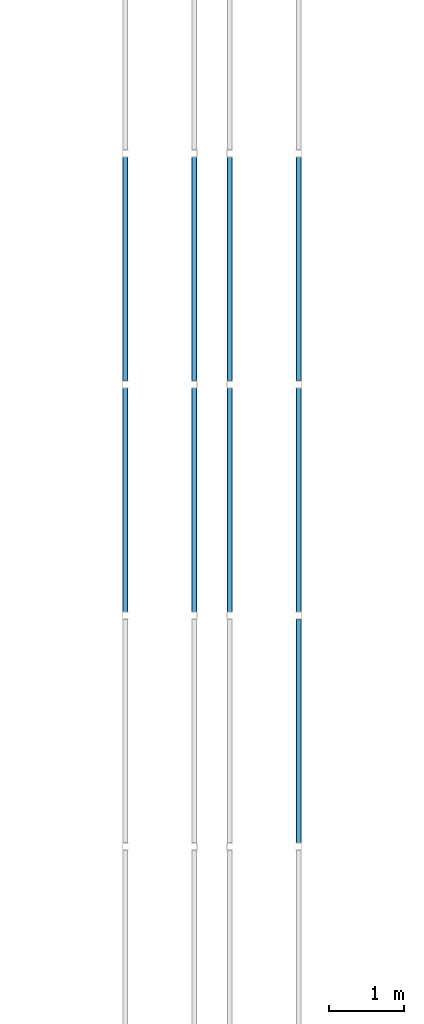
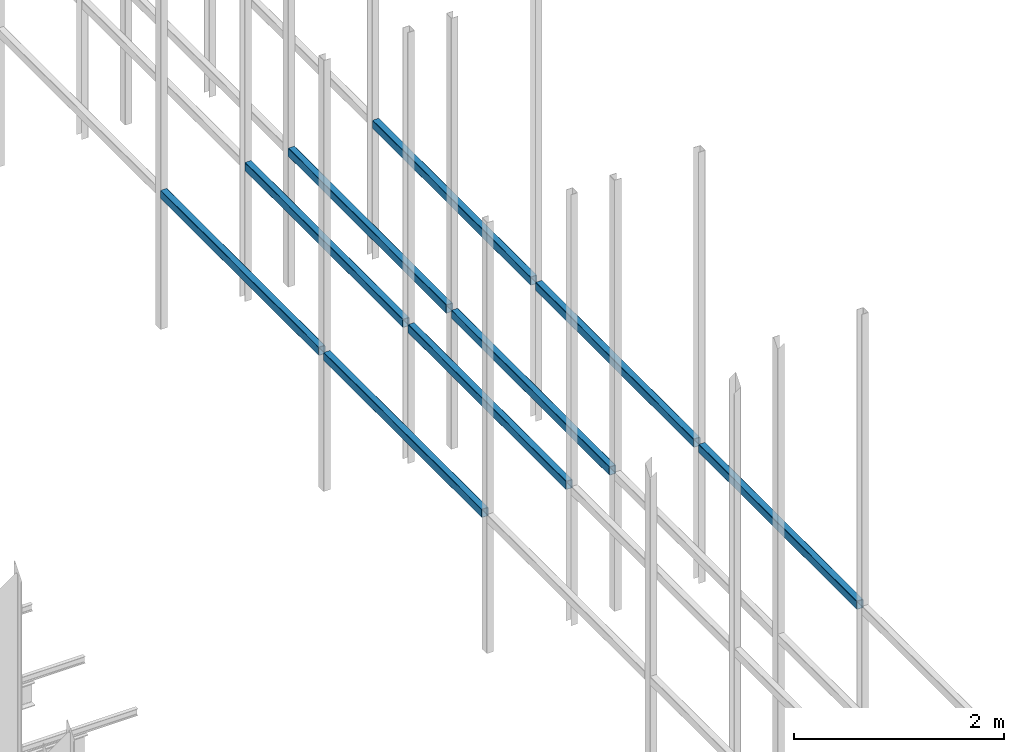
# One storey, part 164 of 302: 9 beams.
"""IFC2X3 building model written with IfcOpenShell, lengths in metres."""

import ifcopenshell
import ifcopenshell.guid

model = None  # the IFC model being written
_history = None  # IfcOwnerHistory: only IFC2X3 demands one
_inside = {}  # id of a spatial element -> (the spatial element, [elements in it])
_under = {}  # id of a project, library or spatial element -> (it, [spatial elements below it])
_declared = {}  # id of a project -> (the project, [libraries it declares])
_typed = {}  # id of a type object -> (the type object, [elements of that type])
_made_of = {}  # id of a material, layer set ... -> (it, [elements and type objects made of it])


def new_model(schema):
    """Start an empty IFC model of exactly this schema.

    Asked for "IFC4X3", IfcOpenShell would pick the latest addendum, in which some entities
    have other attributes; the version numbers below select the first issue.
    IFC2X3 requires an IfcOwnerHistory on every rooted entity: one is made here for all.
    """
    global model, _history
    if schema == "IFC4X3":
        model = ifcopenshell.file(schema_version=(4, 3, 0, 0))
    else:
        model = ifcopenshell.file(schema=schema)
    _inside.clear()
    _under.clear()
    _declared.clear()
    _typed.clear()
    _made_of.clear()
    _history = None
    if model.schema == "IFC2X3":
        org = make("IfcOrganization", Name="unknown")
        user = make(
            "IfcPersonAndOrganization",
            ThePerson=make("IfcPerson", FamilyName="unknown"),
            TheOrganization=org,
        )
        app = make(
            "IfcApplication",
            ApplicationDeveloper=org,
            Version="unknown",
            ApplicationFullName="unknown",
            ApplicationIdentifier="unknown",
        )
        _history = make(
            "IfcOwnerHistory",
            OwningUser=user,
            OwningApplication=app,
            ChangeAction="ADDED",
            CreationDate=0,
        )
    return model


def make(cls, **values):
    """One entity of the class cls with the attributes given. An attribute that is None is left unset."""
    return model.create_entity(
        cls, **{name: value for name, value in values.items() if value is not None}
    )


def entity(cls, *values):
    """Any entity or typed value of the class cls, its attributes in the order of the schema. None: left unset."""
    e = model.create_entity(cls)
    for i, value in enumerate(values):
        if value is not None:
            e[i] = value
    return e


def rooted(cls, **values):
    """An entity with a GlobalId (a new one), such as an element, a storey or a relation."""
    return make(cls, GlobalId=ifcopenshell.guid.new(), OwnerHistory=_history, **values)


def si_unit(unit_type, name, prefix=None):
    """IfcSIUnit, for example si_unit("LENGTHUNIT", "METRE", prefix="MILLI")."""
    return make("IfcSIUnit", UnitType=unit_type, Prefix=prefix, Name=name)


def converted_unit(unit_type, name, factor, base, dimensions=None, offset=None):
    """IfcConversionBasedUnit, such as the inch: factor (a typed value) times the base unit."""
    return make(
        "IfcConversionBasedUnit"
        if offset is None
        else "IfcConversionBasedUnitWithOffset",
        ConversionOffset=offset,
        Dimensions=None
        if dimensions is None
        else entity("IfcDimensionalExponents", *dimensions),
        UnitType=unit_type,
        Name=name,
        ConversionFactor=make(
            "IfcMeasureWithUnit", ValueComponent=factor, UnitComponent=base
        ),
    )


def derived_unit(unit_type, elements):
    """IfcDerivedUnit: a product of units, each with its exponent."""
    return make(
        "IfcDerivedUnit",
        Elements=[
            make("IfcDerivedUnitElement", Unit=unit, Exponent=power)
            for unit, power in elements
        ],
        UnitType=unit_type,
    )


def assignment(units):
    """IfcUnitAssignment: the units of a project."""
    return None if units is None else make("IfcUnitAssignment", Units=units)


def point(xyz):
    """IfcCartesianPoint."""
    return None if xyz is None else make("IfcCartesianPoint", Coordinates=xyz)


def direction(xyz):
    """IfcDirection."""
    return None if xyz is None else make("IfcDirection", DirectionRatios=xyz)


def frame(location, z_axis=None, x_axis=None):
    """IfcAxis2Placement3D, a coordinate frame: its origin and axes. An axis left out is left unset."""
    return make(
        "IfcAxis2Placement3D",
        Location=point(location),
        Axis=direction(z_axis),
        RefDirection=direction(x_axis),
    )


def frame_2d(location, x_axis=None):
    """IfcAxis2Placement2D, a coordinate frame in the plane: its origin and x axis."""
    return make(
        "IfcAxis2Placement2D", Location=point(location), RefDirection=direction(x_axis)
    )


def origin():
    """The frame at (0, 0, 0) with its axes left unset."""
    return frame((0.0, 0.0, 0.0))


def place(relative_to, where):
    """IfcLocalPlacement: puts the frame where relative to a parent placement (None: the world)."""
    return make(
        "IfcLocalPlacement", PlacementRelTo=relative_to, RelativePlacement=where
    )


def context(
    kind, dimensions, precision=None, world=None, true_north=None, identifier=None
):
    """IfcGeometricRepresentationContext, for example the 3D "Model" context."""
    return make(
        "IfcGeometricRepresentationContext",
        ContextIdentifier=identifier,
        ContextType=kind,
        CoordinateSpaceDimension=dimensions,
        Precision=precision,
        WorldCoordinateSystem=world,
        TrueNorth=true_north,
    )


def subcontext(parent, identifier, kind, view, scale=None):
    """IfcGeometricRepresentationSubContext, for example "Body" below "Model"."""
    return make(
        "IfcGeometricRepresentationSubContext",
        ContextIdentifier=identifier,
        ContextType=kind,
        ParentContext=parent,
        TargetScale=scale,
        TargetView=view,
    )


def project(units=None, contexts=None):
    """IfcProject with its units and contexts."""
    return rooted(
        "IfcProject",
        Name="project",
        RepresentationContexts=contexts,
        UnitsInContext=assignment(units),
    )


def spatial(cls, under=None, at=None, **own):
    """A site, building, storey or space (cls), placed at a placement, below another one or the project."""
    s = rooted(cls, ObjectPlacement=at, **own)
    if under is not None:
        _under.setdefault(under.id(), (under, []))[1].append(s)
    return s


def polyline(points):
    """IfcPolyline through the points."""
    return make("IfcPolyline", Points=[point(p) for p in points])


def circle_curve(where, radius):
    """IfcCircle in the frame where."""
    return make("IfcCircle", Position=where, Radius=radius)


def parameter(value):
    """IfcParameterValue: where a trimmed curve begins or ends, as a parameter of its basis curve."""
    return model.create_entity("IfcParameterValue", value)


def trimmed(basis, trim1, trim2, sense, master):
    """IfcTrimmedCurve: the piece of a basis curve between two trims."""
    return make(
        "IfcTrimmedCurve",
        BasisCurve=basis,
        Trim1=trim1,
        Trim2=trim2,
        SenseAgreement=sense,
        MasterRepresentation=master,
    )


def segment(curve, same_sense, transition):
    """IfcCompositeCurveSegment."""
    return make(
        "IfcCompositeCurveSegment",
        Transition=transition,
        SameSense=same_sense,
        ParentCurve=curve,
    )


def composite_curve(segments, self_intersect=None):
    """IfcCompositeCurve: segments joined end to end."""
    return make("IfcCompositeCurve", Segments=segments, SelfIntersect=self_intersect)


def outline(outer, holes=None, kind="AREA"):
    """IfcArbitraryClosedProfileDef: a profile drawn as a closed curve; with holes, ...WithVoids."""
    if holes is None:
        return make("IfcArbitraryClosedProfileDef", ProfileType=kind, OuterCurve=outer)
    return make(
        "IfcArbitraryProfileDefWithVoids",
        ProfileType=kind,
        OuterCurve=outer,
        InnerCurves=holes,
    )


def extrude(swept, where, along, depth):
    """IfcExtrudedAreaSolid: the profile swept, set in the frame where, extruded along a direction by depth."""
    return make(
        "IfcExtrudedAreaSolid",
        SweptArea=swept,
        Position=where,
        ExtrudedDirection=direction(along),
        Depth=depth,
    )


def shape(context_of_items, identifier, shape_type, items):
    """IfcShapeRepresentation: the items that make up one representation, for example the "Body"."""
    return make(
        "IfcShapeRepresentation",
        ContextOfItems=context_of_items,
        RepresentationIdentifier=identifier,
        RepresentationType=shape_type,
        Items=items,
    )


def material(Name=None, Category=None):
    """IfcMaterial."""
    return make("IfcMaterial", Name=Name, Category=Category)


def made_of(thing, what):
    """Note that an element or type object is made of a material, layer set ...; save() writes the relation."""
    if what is not None:
        _made_of.setdefault(what.id(), (what, []))[1].append(thing)
    return thing


def type_object(cls, material=None, **own):
    """A type object (cls), such as IfcWallType, which elements share."""
    return made_of(rooted(cls, **own), material)


def element(
    cls,
    number,
    at=None,
    inside=None,
    cuts=None,
    type_object=None,
    material=None,
    context=None,
    identifier="Body",
    shape_type=None,
    held_by="IfcProductDefinitionShape",
    body=None,
    shapes=None,
    **own,
):
    """One element of the class cls, such as IfcWall. Its Tag is "e" and its number.

    at: its placement. inside: the storey or other place that contains it. cuts: it is an
    opening in that element (IfcRelVoidsElement). A single representation is given by context,
    identifier, shape_type and body (its items); several are given by shapes. held_by: the class
    of the entity that holds the representations. save() writes the other relations.
    """
    e = rooted(cls, Tag="e%d" % number, ObjectPlacement=at, **own)
    if body is not None:
        shapes = [shape(context, identifier, shape_type, body)]
    if shapes is not None:
        e.Representation = make(held_by, Representations=shapes)
    if inside is not None:
        _inside.setdefault(inside.id(), (inside, []))[1].append(e)
    if cuts is not None:
        rooted(
            "IfcRelVoidsElement", RelatingBuildingElement=cuts, RelatedOpeningElement=e
        )
    if type_object is not None:
        _typed.setdefault(type_object.id(), (type_object, []))[1].append(e)
    return made_of(e, material)


def aggregate(whole, parts):
    """IfcRelAggregates: a whole, such as a stair, and the parts it consists of."""
    return rooted("IfcRelAggregates", RelatingObject=whole, RelatedObjects=parts)


def save(model, path):
    """Write the relations noted so far, then the file.

    IfcRelAggregates (storeys below a building ...), IfcRelContainedInSpatialStructure (elements
    in a storey), IfcRelDefinesByType, IfcRelAssociatesMaterial and IfcRelDeclares: one each for
    every whole, place, type object, material and project.
    """
    for whole, parts in _under.values():
        aggregate(whole, parts)
    for where, things in _inside.values():
        rooted(
            "IfcRelContainedInSpatialStructure",
            RelatedElements=things,
            RelatingStructure=where,
        )
    for kind, things in _typed.values():
        rooted("IfcRelDefinesByType", RelatedObjects=things, RelatingType=kind)
    for what, things in _made_of.values():
        rooted("IfcRelAssociatesMaterial", RelatedObjects=things, RelatingMaterial=what)
    for by, libraries in _declared.values():
        rooted("IfcRelDeclares", RelatingContext=by, RelatedDefinitions=libraries)
    model.write(path)


model = new_model("IFC2X3")

# Units and contexts
model_context = context("Model", 3, precision=1e-05, world=origin(), true_north=direction((6.12303176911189e-17, 1.0)))
body_context = subcontext(model_context, "Body", "Model", "MODEL_VIEW")
ifc_project = project(units=[si_unit("LENGTHUNIT", "METRE"), si_unit("AREAUNIT", "SQUARE_METRE"), si_unit("VOLUMEUNIT", "CUBIC_METRE"), converted_unit("PLANEANGLEUNIT", "DEGREE", entity("IfcRatioMeasure", 0.0174532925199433), si_unit("PLANEANGLEUNIT", "RADIAN"), dimensions=[0, 0, 0, 0, 0, 0, 0]), si_unit("MASSUNIT", "GRAM", prefix="KILO"), derived_unit("MASSDENSITYUNIT", [(si_unit("MASSUNIT", "GRAM", prefix="KILO"), 1), (si_unit("LENGTHUNIT", "METRE"), -3)]), derived_unit("MOMENTOFINERTIAUNIT", [(si_unit("LENGTHUNIT", "METRE"), 4)]), si_unit("TIMEUNIT", "SECOND"), si_unit("FREQUENCYUNIT", "HERTZ"), si_unit("THERMODYNAMICTEMPERATUREUNIT", "DEGREE_CELSIUS"), derived_unit("THERMALTRANSMITTANCEUNIT", [(si_unit("MASSUNIT", "GRAM", prefix="KILO"), 1), (si_unit("THERMODYNAMICTEMPERATUREUNIT", "KELVIN"), -1), (si_unit("TIMEUNIT", "SECOND"), -3)]), derived_unit("VOLUMETRICFLOWRATEUNIT", [(si_unit("LENGTHUNIT", "METRE"), 3), (si_unit("TIMEUNIT", "SECOND"), -1)]), si_unit("ELECTRICCURRENTUNIT", "AMPERE"), si_unit("ELECTRICVOLTAGEUNIT", "VOLT"), si_unit("POWERUNIT", "WATT"), si_unit("FORCEUNIT", "NEWTON", prefix="KILO"), si_unit("ILLUMINANCEUNIT", "LUX"), si_unit("LUMINOUSFLUXUNIT", "LUMEN"), si_unit("LUMINOUSINTENSITYUNIT", "CANDELA"), derived_unit("USERDEFINED", [(si_unit("MASSUNIT", "GRAM", prefix="KILO"), -1), (si_unit("LENGTHUNIT", "METRE"), -2), (si_unit("TIMEUNIT", "SECOND"), 3), (si_unit("LUMINOUSFLUXUNIT", "LUMEN"), 1)]), derived_unit("LINEARVELOCITYUNIT", [(si_unit("LENGTHUNIT", "METRE"), 1), (si_unit("TIMEUNIT", "SECOND"), -1)]), si_unit("PRESSUREUNIT", "PASCAL"), derived_unit("USERDEFINED", [(si_unit("LENGTHUNIT", "METRE"), -2), (si_unit("MASSUNIT", "GRAM", prefix="KILO"), 1), (si_unit("TIMEUNIT", "SECOND"), -2)]), derived_unit("LINEARFORCEUNIT", [(si_unit("MASSUNIT", "GRAM", prefix="KILO"), 1), (si_unit("LENGTHUNIT", "METRE"), 1), (si_unit("TIMEUNIT", "SECOND"), -2), (si_unit("LENGTHUNIT", "METRE"), -1)]), derived_unit("PLANARFORCEUNIT", [(si_unit("MASSUNIT", "GRAM", prefix="KILO"), 1), (si_unit("LENGTHUNIT", "METRE"), 1), (si_unit("TIMEUNIT", "SECOND"), -2), (si_unit("LENGTHUNIT", "METRE"), -2)])], contexts=[model_context])

# Site, building, storey
site_placement = place(None, origin())
site = spatial("IfcSite", under=ifc_project, at=site_placement, Name="Default", CompositionType="ELEMENT")
building_placement = place(site_placement, origin())
building = spatial("IfcBuilding", under=site, at=building_placement, CompositionType="ELEMENT")
storey_placement = place(building_placement, frame((0.0, 0.0, -1.3)))
storey = spatial("IfcBuildingStorey", under=building, at=storey_placement, Name="00_EG", CompositionType="ELEMENT", Elevation=-1.3)

# Beams
ifc_material = material(Name="Metall - Baustahl S235 blau")
beam_type = type_object("IfcBeamType", Name="RHS Träger (EN 10219-2):RHS 100 x 75 x 5", PredefinedType="NOTDEFINED")
beam_1_placement = place(storey_placement, frame((-156.868311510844, 23.5480889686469, 2.885), z_axis=(0.0, 0.0, 1.0), x_axis=(0.0, 1.0, 0.0)))
element("IfcBeam", 1, at=beam_1_placement, inside=storey, type_object=beam_type, material=ifc_material, Name="RHS Träger (EN 10219-2):RHS 100 x 75 x 5", ObjectType="RHS Träger (EN 10219-2):RHS 100 x 75 x 5", context=body_context, shape_type="SweptSolid", body=[
    extrude(outline(composite_curve([segment(polyline([(-0.0399999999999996, -0.0374999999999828), (0.0400000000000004, -0.0374999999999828)]), True, "CONTINUOUS"), segment(trimmed(circle_curve(frame_2d((0.0400000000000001, -0.0274999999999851), x_axis=(0.0, 1.0)), 0.01), [parameter(180.0)], [parameter(270.0)], True, "PARAMETER"), True, "CONTINUOUS"), segment(polyline([(0.0500000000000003, -0.0274999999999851), (0.0500000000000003, 0.0274999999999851)]), True, "CONTINUOUS"), segment(trimmed(circle_curve(frame_2d((0.0400000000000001, 0.0274999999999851), x_axis=(0.0, 1.0)), 0.01), [parameter(270.0)], [parameter(4.07110999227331e-13)], True, "PARAMETER"), True, "CONTINUOUS"), segment(polyline([(0.0400000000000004, 0.0375000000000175), (-0.0399999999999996, 0.0375000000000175)]), True, "CONTINUOUS"), segment(trimmed(circle_curve(frame_2d((-0.0399999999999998, 0.0274999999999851), x_axis=(0.0, 1.0)), 0.01), [parameter(360.0)], [parameter(90.0000000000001)], True, "PARAMETER"), True, "CONTINUOUS"), segment(polyline([(-0.0499999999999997, 0.0274999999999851), (-0.0499999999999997, -0.0274999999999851)]), True, "CONTINUOUS"), segment(trimmed(circle_curve(frame_2d((-0.0399999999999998, -0.0274999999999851), x_axis=(0.0, 1.0)), 0.01), [parameter(90.0000000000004)], [parameter(180.0)], True, "PARAMETER"), True, "CONTINUOUS")], self_intersect=False), holes=[composite_curve([segment(trimmed(circle_curve(frame_2d((-0.0400000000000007, 0.0274999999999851), x_axis=(0.0, 1.0)), 0.005), [parameter(360.0)], [parameter(89.9999999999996)], True, "PARAMETER"), False, "CONTINUOUS"), segment(polyline([(-0.0400000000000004, 0.0325000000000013), (0.0399999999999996, 0.0325000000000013)]), True, "CONTINUOUS"), segment(trimmed(circle_curve(frame_2d((0.0399999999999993, 0.0274999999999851), x_axis=(0.0, 1.0)), 0.005), [parameter(270.0)], [parameter(0.0)], True, "PARAMETER"), False, "CONTINUOUS"), segment(polyline([(0.0449999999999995, 0.0274999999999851), (0.0449999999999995, -0.0274999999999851)]), True, "CONTINUOUS"), segment(trimmed(circle_curve(frame_2d((0.0399999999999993, -0.0274999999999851), x_axis=(0.0, 1.0)), 0.005), [parameter(180.0)], [parameter(269.999999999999)], True, "PARAMETER"), False, "CONTINUOUS"), segment(polyline([(0.0399999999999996, -0.0325000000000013), (-0.0400000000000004, -0.0325000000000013)]), True, "CONTINUOUS"), segment(trimmed(circle_curve(frame_2d((-0.0400000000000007, -0.0274999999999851), x_axis=(0.0, 1.0)), 0.005), [parameter(90.0000000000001)], [parameter(180.0)], True, "PARAMETER"), False, "CONTINUOUS"), segment(polyline([(-0.0450000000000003, -0.0274999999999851), (-0.0450000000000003, 0.0274999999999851)]), True, "CONTINUOUS")], self_intersect=False)]), frame((0.00010000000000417, -0.0375000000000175, -0.0500000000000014), z_axis=(1.0, 0.0, 0.0), x_axis=(0.0, 0.0, -1.0)), (0.0, 0.0, 1.0), 2.9998),
])
beam_2_placement = place(storey_placement, frame((-159.118311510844, 26.6480889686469, 2.885), z_axis=(0.0, 0.0, 1.0), x_axis=(0.0, 1.0, 0.0)))
element("IfcBeam", 2, at=beam_2_placement, inside=storey, type_object=beam_type, material=ifc_material, Name="RHS Träger (EN 10219-2):RHS 100 x 75 x 5", ObjectType="RHS Träger (EN 10219-2):RHS 100 x 75 x 5", context=body_context, shape_type="SweptSolid", body=[
    extrude(outline(composite_curve([segment(trimmed(circle_curve(frame_2d((-0.0274999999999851, -0.0400000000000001), x_axis=(1.0, 0.0)), 0.01), [parameter(180.0)], [parameter(270.0)], True, "PARAMETER"), True, "CONTINUOUS"), segment(polyline([(-0.0274999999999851, -0.05), (0.0274999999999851, -0.05)]), True, "CONTINUOUS"), segment(trimmed(circle_curve(frame_2d((0.0274999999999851, -0.0400000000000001), x_axis=(1.0, 0.0)), 0.01), [parameter(270.0)], [parameter(5.08888749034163e-14)], True, "PARAMETER"), True, "CONTINUOUS"), segment(polyline([(0.0375000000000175, -0.0399999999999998), (0.0375000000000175, 0.0400000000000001)]), True, "CONTINUOUS"), segment(trimmed(circle_curve(frame_2d((0.0274999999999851, 0.0399999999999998), x_axis=(1.0, 0.0)), 0.01), [parameter(360.0)], [parameter(89.9999999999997)], True, "PARAMETER"), True, "CONTINUOUS"), segment(polyline([(0.0274999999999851, 0.05), (-0.0274999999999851, 0.05)]), True, "CONTINUOUS"), segment(trimmed(circle_curve(frame_2d((-0.0274999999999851, 0.0399999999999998), x_axis=(1.0, 0.0)), 0.01), [parameter(90.0000000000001)], [parameter(180.0)], True, "PARAMETER"), True, "CONTINUOUS"), segment(polyline([(-0.0374999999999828, 0.0400000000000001), (-0.0374999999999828, -0.0399999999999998)]), True, "CONTINUOUS")], self_intersect=False), holes=[composite_curve([segment(polyline([(0.0274999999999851, -0.0450000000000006), (-0.0274999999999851, -0.0450000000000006)]), True, "CONTINUOUS"), segment(trimmed(circle_curve(frame_2d((-0.0274999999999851, -0.0400000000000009), x_axis=(1.0, 0.0)), 0.005), [parameter(180.0)], [parameter(270.0)], True, "PARAMETER"), False, "CONTINUOUS"), segment(polyline([(-0.0325000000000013, -0.0400000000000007), (-0.0325000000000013, 0.0399999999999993)]), True, "CONTINUOUS"), segment(trimmed(circle_curve(frame_2d((-0.0274999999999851, 0.039999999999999), x_axis=(1.0, 0.0)), 0.005), [parameter(90.0000000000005)], [parameter(180.0)], True, "PARAMETER"), False, "CONTINUOUS"), segment(polyline([(-0.0274999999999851, 0.0449999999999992), (0.0274999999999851, 0.0449999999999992)]), True, "CONTINUOUS"), segment(trimmed(circle_curve(frame_2d((0.0274999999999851, 0.039999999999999), x_axis=(1.0, 0.0)), 0.005), [parameter(0.0)], [parameter(90.0000000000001)], True, "PARAMETER"), False, "CONTINUOUS"), segment(polyline([(0.0325000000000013, 0.0399999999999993), (0.0325000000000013, -0.0400000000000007)]), True, "CONTINUOUS"), segment(trimmed(circle_curve(frame_2d((0.0274999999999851, -0.0400000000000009), x_axis=(1.0, 0.0)), 0.005), [parameter(270.0)], [parameter(4.07110999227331e-13)], True, "PARAMETER"), False, "CONTINUOUS")], self_intersect=False)]), frame((9.99999999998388e-05, 0.0375000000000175, -0.0500000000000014), z_axis=(1.0, 0.0, 0.0), x_axis=(0.0, -1.0, 0.0)), (0.0, 0.0, 1.0), 2.9998),
])
beam_3_placement = place(storey_placement, frame((-158.268311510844, 26.6480889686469, 2.885), z_axis=(0.0, 0.0, 1.0), x_axis=(0.0, 1.0, 0.0)))
element("IfcBeam", 3, at=beam_3_placement, inside=storey, type_object=beam_type, material=ifc_material, Name="RHS Träger (EN 10219-2):RHS 100 x 75 x 5", ObjectType="RHS Träger (EN 10219-2):RHS 100 x 75 x 5", context=body_context, shape_type="SweptSolid", body=[
    extrude(outline(composite_curve([segment(polyline([(-0.0399999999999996, -0.0375000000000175), (0.0400000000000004, -0.0375000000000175)]), True, "CONTINUOUS"), segment(trimmed(circle_curve(frame_2d((0.0400000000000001, -0.0275000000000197), x_axis=(0.0, 1.0)), 0.01), [parameter(180.0)], [parameter(270.0)], True, "PARAMETER"), True, "CONTINUOUS"), segment(polyline([(0.0500000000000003, -0.0275000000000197), (0.0500000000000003, 0.0274999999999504)]), True, "CONTINUOUS"), segment(trimmed(circle_curve(frame_2d((0.0400000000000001, 0.0274999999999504), x_axis=(0.0, 1.0)), 0.01), [parameter(270.0)], [parameter(4.07110999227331e-13)], True, "PARAMETER"), True, "CONTINUOUS"), segment(polyline([(0.0400000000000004, 0.0374999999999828), (-0.0399999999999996, 0.0374999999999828)]), True, "CONTINUOUS"), segment(trimmed(circle_curve(frame_2d((-0.0399999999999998, 0.0274999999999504), x_axis=(0.0, 1.0)), 0.01), [parameter(360.0)], [parameter(90.0000000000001)], True, "PARAMETER"), True, "CONTINUOUS"), segment(polyline([(-0.0499999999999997, 0.0274999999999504), (-0.0499999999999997, -0.0275000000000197)]), True, "CONTINUOUS"), segment(trimmed(circle_curve(frame_2d((-0.0399999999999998, -0.0275000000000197), x_axis=(0.0, 1.0)), 0.01), [parameter(90.0000000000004)], [parameter(180.0)], True, "PARAMETER"), True, "CONTINUOUS")], self_intersect=False), holes=[composite_curve([segment(trimmed(circle_curve(frame_2d((-0.0400000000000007, 0.0274999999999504), x_axis=(0.0, 1.0)), 0.005), [parameter(360.0)], [parameter(89.9999999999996)], True, "PARAMETER"), False, "CONTINUOUS"), segment(polyline([(-0.0400000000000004, 0.0324999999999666), (0.0399999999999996, 0.0324999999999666)]), True, "CONTINUOUS"), segment(trimmed(circle_curve(frame_2d((0.0399999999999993, 0.0274999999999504), x_axis=(0.0, 1.0)), 0.005), [parameter(270.0)], [parameter(0.0)], True, "PARAMETER"), False, "CONTINUOUS"), segment(polyline([(0.0449999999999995, 0.0274999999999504), (0.0449999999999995, -0.0275000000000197)]), True, "CONTINUOUS"), segment(trimmed(circle_curve(frame_2d((0.0399999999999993, -0.0275000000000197), x_axis=(0.0, 1.0)), 0.005), [parameter(180.0)], [parameter(269.999999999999)], True, "PARAMETER"), False, "CONTINUOUS"), segment(polyline([(0.0399999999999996, -0.0325000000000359), (-0.0400000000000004, -0.0325000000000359)]), True, "CONTINUOUS"), segment(trimmed(circle_curve(frame_2d((-0.0400000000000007, -0.0275000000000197), x_axis=(0.0, 1.0)), 0.005), [parameter(90.0000000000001)], [parameter(180.0)], True, "PARAMETER"), False, "CONTINUOUS"), segment(polyline([(-0.0450000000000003, -0.0275000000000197), (-0.0450000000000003, 0.0274999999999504)]), True, "CONTINUOUS")], self_intersect=False)]), frame((9.99999999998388e-05, -0.0374999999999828, -0.0500000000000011), z_axis=(1.0, 0.0, 0.0), x_axis=(0.0, 0.0, -1.0)), (0.0, 0.0, 1.0), 2.9998),
])
beam_4_placement = place(storey_placement, frame((-157.718311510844, 26.6480889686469, 2.885), z_axis=(0.0, 0.0, 1.0), x_axis=(0.0, 1.0, 0.0)))
element("IfcBeam", 4, at=beam_4_placement, inside=storey, type_object=beam_type, material=ifc_material, Name="RHS Träger (EN 10219-2):RHS 100 x 75 x 5", ObjectType="RHS Träger (EN 10219-2):RHS 100 x 75 x 5", context=body_context, shape_type="SweptSolid", body=[
    extrude(outline(composite_curve([segment(trimmed(circle_curve(frame_2d((-0.0274999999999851, -0.0400000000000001), x_axis=(1.0, 0.0)), 0.01), [parameter(180.0)], [parameter(270.0)], True, "PARAMETER"), True, "CONTINUOUS"), segment(polyline([(-0.0274999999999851, -0.05), (0.0274999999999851, -0.05)]), True, "CONTINUOUS"), segment(trimmed(circle_curve(frame_2d((0.0274999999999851, -0.0400000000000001), x_axis=(1.0, 0.0)), 0.01), [parameter(270.0)], [parameter(5.08888749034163e-14)], True, "PARAMETER"), True, "CONTINUOUS"), segment(polyline([(0.0375000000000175, -0.0399999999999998), (0.0375000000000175, 0.0400000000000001)]), True, "CONTINUOUS"), segment(trimmed(circle_curve(frame_2d((0.0274999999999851, 0.0399999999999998), x_axis=(1.0, 0.0)), 0.01), [parameter(360.0)], [parameter(89.9999999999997)], True, "PARAMETER"), True, "CONTINUOUS"), segment(polyline([(0.0274999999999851, 0.05), (-0.0274999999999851, 0.05)]), True, "CONTINUOUS"), segment(trimmed(circle_curve(frame_2d((-0.0274999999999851, 0.0399999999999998), x_axis=(1.0, 0.0)), 0.01), [parameter(90.0000000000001)], [parameter(180.0)], True, "PARAMETER"), True, "CONTINUOUS"), segment(polyline([(-0.0374999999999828, 0.0400000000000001), (-0.0374999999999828, -0.0399999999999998)]), True, "CONTINUOUS")], self_intersect=False), holes=[composite_curve([segment(polyline([(0.0274999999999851, -0.0450000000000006), (-0.0274999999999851, -0.0450000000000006)]), True, "CONTINUOUS"), segment(trimmed(circle_curve(frame_2d((-0.0274999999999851, -0.0400000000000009), x_axis=(1.0, 0.0)), 0.005), [parameter(180.0)], [parameter(270.0)], True, "PARAMETER"), False, "CONTINUOUS"), segment(polyline([(-0.0325000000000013, -0.0400000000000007), (-0.0325000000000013, 0.0399999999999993)]), True, "CONTINUOUS"), segment(trimmed(circle_curve(frame_2d((-0.0274999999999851, 0.039999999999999), x_axis=(1.0, 0.0)), 0.005), [parameter(90.0000000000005)], [parameter(180.0)], True, "PARAMETER"), False, "CONTINUOUS"), segment(polyline([(-0.0274999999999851, 0.0449999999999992), (0.0274999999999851, 0.0449999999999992)]), True, "CONTINUOUS"), segment(trimmed(circle_curve(frame_2d((0.0274999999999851, 0.039999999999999), x_axis=(1.0, 0.0)), 0.005), [parameter(0.0)], [parameter(90.0000000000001)], True, "PARAMETER"), False, "CONTINUOUS"), segment(polyline([(0.0325000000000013, 0.0399999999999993), (0.0325000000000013, -0.0400000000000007)]), True, "CONTINUOUS"), segment(trimmed(circle_curve(frame_2d((0.0274999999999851, -0.0400000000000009), x_axis=(1.0, 0.0)), 0.005), [parameter(270.0)], [parameter(4.07110999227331e-13)], True, "PARAMETER"), False, "CONTINUOUS")], self_intersect=False)]), frame((9.99999999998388e-05, 0.0375000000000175, -0.0500000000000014), z_axis=(1.0, 0.0, 0.0), x_axis=(0.0, -1.0, 0.0)), (0.0, 0.0, 1.0), 2.9998),
])
beam_5_placement = place(storey_placement, frame((-156.868311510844, 26.6480889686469, 2.885), z_axis=(0.0, 0.0, 1.0), x_axis=(0.0, 1.0, 0.0)))
element("IfcBeam", 5, at=beam_5_placement, inside=storey, type_object=beam_type, material=ifc_material, Name="RHS Träger (EN 10219-2):RHS 100 x 75 x 5", ObjectType="RHS Träger (EN 10219-2):RHS 100 x 75 x 5", context=body_context, shape_type="SweptSolid", body=[
    extrude(outline(composite_curve([segment(polyline([(-0.0399999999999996, -0.0374999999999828), (0.0400000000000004, -0.0374999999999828)]), True, "CONTINUOUS"), segment(trimmed(circle_curve(frame_2d((0.0400000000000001, -0.0274999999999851), x_axis=(0.0, 1.0)), 0.01), [parameter(180.0)], [parameter(270.0)], True, "PARAMETER"), True, "CONTINUOUS"), segment(polyline([(0.0500000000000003, -0.0274999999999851), (0.0500000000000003, 0.0274999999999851)]), True, "CONTINUOUS"), segment(trimmed(circle_curve(frame_2d((0.0400000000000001, 0.0274999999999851), x_axis=(0.0, 1.0)), 0.01), [parameter(270.0)], [parameter(4.07110999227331e-13)], True, "PARAMETER"), True, "CONTINUOUS"), segment(polyline([(0.0400000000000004, 0.0375000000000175), (-0.0399999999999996, 0.0375000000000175)]), True, "CONTINUOUS"), segment(trimmed(circle_curve(frame_2d((-0.0399999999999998, 0.0274999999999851), x_axis=(0.0, 1.0)), 0.01), [parameter(360.0)], [parameter(90.0000000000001)], True, "PARAMETER"), True, "CONTINUOUS"), segment(polyline([(-0.0499999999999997, 0.0274999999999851), (-0.0499999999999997, -0.0274999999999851)]), True, "CONTINUOUS"), segment(trimmed(circle_curve(frame_2d((-0.0399999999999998, -0.0274999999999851), x_axis=(0.0, 1.0)), 0.01), [parameter(90.0000000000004)], [parameter(180.0)], True, "PARAMETER"), True, "CONTINUOUS")], self_intersect=False), holes=[composite_curve([segment(trimmed(circle_curve(frame_2d((-0.0400000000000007, 0.0274999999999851), x_axis=(0.0, 1.0)), 0.005), [parameter(360.0)], [parameter(89.9999999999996)], True, "PARAMETER"), False, "CONTINUOUS"), segment(polyline([(-0.0400000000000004, 0.0325000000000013), (0.0399999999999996, 0.0325000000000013)]), True, "CONTINUOUS"), segment(trimmed(circle_curve(frame_2d((0.0399999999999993, 0.0274999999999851), x_axis=(0.0, 1.0)), 0.005), [parameter(270.0)], [parameter(0.0)], True, "PARAMETER"), False, "CONTINUOUS"), segment(polyline([(0.0449999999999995, 0.0274999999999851), (0.0449999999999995, -0.0274999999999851)]), True, "CONTINUOUS"), segment(trimmed(circle_curve(frame_2d((0.0399999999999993, -0.0274999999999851), x_axis=(0.0, 1.0)), 0.005), [parameter(180.0)], [parameter(269.999999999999)], True, "PARAMETER"), False, "CONTINUOUS"), segment(polyline([(0.0399999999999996, -0.0325000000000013), (-0.0400000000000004, -0.0325000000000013)]), True, "CONTINUOUS"), segment(trimmed(circle_curve(frame_2d((-0.0400000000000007, -0.0274999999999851), x_axis=(0.0, 1.0)), 0.005), [parameter(90.0000000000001)], [parameter(180.0)], True, "PARAMETER"), False, "CONTINUOUS"), segment(polyline([(-0.0450000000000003, -0.0274999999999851), (-0.0450000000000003, 0.0274999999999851)]), True, "CONTINUOUS")], self_intersect=False)]), frame((9.99999999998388e-05, -0.0375000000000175, -0.0500000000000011), z_axis=(1.0, 0.0, 0.0), x_axis=(0.0, 0.0, -1.0)), (0.0, 0.0, 1.0), 2.9998),
])
beam_6_placement = place(storey_placement, frame((-159.118311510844, 29.7480889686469, 2.885), z_axis=(0.0, 0.0, 1.0), x_axis=(0.0, 1.0, 0.0)))
element("IfcBeam", 6, at=beam_6_placement, inside=storey, type_object=beam_type, material=ifc_material, Name="RHS Träger (EN 10219-2):RHS 100 x 75 x 5", ObjectType="RHS Träger (EN 10219-2):RHS 100 x 75 x 5", context=body_context, shape_type="SweptSolid", body=[
    extrude(outline(composite_curve([segment(trimmed(circle_curve(frame_2d((-0.0274999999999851, -0.0400000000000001), x_axis=(1.0, 0.0)), 0.01), [parameter(180.0)], [parameter(270.0)], True, "PARAMETER"), True, "CONTINUOUS"), segment(polyline([(-0.0274999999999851, -0.05), (0.0274999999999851, -0.05)]), True, "CONTINUOUS"), segment(trimmed(circle_curve(frame_2d((0.0274999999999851, -0.0400000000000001), x_axis=(1.0, 0.0)), 0.01), [parameter(270.0)], [parameter(5.08888749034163e-14)], True, "PARAMETER"), True, "CONTINUOUS"), segment(polyline([(0.0375000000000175, -0.0399999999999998), (0.0375000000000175, 0.0400000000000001)]), True, "CONTINUOUS"), segment(trimmed(circle_curve(frame_2d((0.0274999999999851, 0.0399999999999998), x_axis=(1.0, 0.0)), 0.01), [parameter(360.0)], [parameter(89.9999999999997)], True, "PARAMETER"), True, "CONTINUOUS"), segment(polyline([(0.0274999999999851, 0.05), (-0.0274999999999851, 0.05)]), True, "CONTINUOUS"), segment(trimmed(circle_curve(frame_2d((-0.0274999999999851, 0.0399999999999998), x_axis=(1.0, 0.0)), 0.01), [parameter(90.0000000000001)], [parameter(180.0)], True, "PARAMETER"), True, "CONTINUOUS"), segment(polyline([(-0.0374999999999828, 0.0400000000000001), (-0.0374999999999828, -0.0399999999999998)]), True, "CONTINUOUS")], self_intersect=False), holes=[composite_curve([segment(polyline([(0.0274999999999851, -0.0450000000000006), (-0.0274999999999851, -0.0450000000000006)]), True, "CONTINUOUS"), segment(trimmed(circle_curve(frame_2d((-0.0274999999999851, -0.0400000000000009), x_axis=(1.0, 0.0)), 0.005), [parameter(180.0)], [parameter(270.0)], True, "PARAMETER"), False, "CONTINUOUS"), segment(polyline([(-0.0325000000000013, -0.0400000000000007), (-0.0325000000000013, 0.0399999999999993)]), True, "CONTINUOUS"), segment(trimmed(circle_curve(frame_2d((-0.0274999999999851, 0.039999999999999), x_axis=(1.0, 0.0)), 0.005), [parameter(90.0000000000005)], [parameter(180.0)], True, "PARAMETER"), False, "CONTINUOUS"), segment(polyline([(-0.0274999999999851, 0.0449999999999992), (0.0274999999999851, 0.0449999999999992)]), True, "CONTINUOUS"), segment(trimmed(circle_curve(frame_2d((0.0274999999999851, 0.039999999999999), x_axis=(1.0, 0.0)), 0.005), [parameter(0.0)], [parameter(90.0000000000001)], True, "PARAMETER"), False, "CONTINUOUS"), segment(polyline([(0.0325000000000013, 0.0399999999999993), (0.0325000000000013, -0.0400000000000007)]), True, "CONTINUOUS"), segment(trimmed(circle_curve(frame_2d((0.0274999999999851, -0.0400000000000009), x_axis=(1.0, 0.0)), 0.005), [parameter(270.0)], [parameter(4.07110999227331e-13)], True, "PARAMETER"), False, "CONTINUOUS")], self_intersect=False)]), frame((9.99999999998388e-05, 0.0375000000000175, -0.0500000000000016), z_axis=(1.0, 0.0, 0.0), x_axis=(0.0, -1.0, 0.0)), (0.0, 0.0, 1.0), 2.9998),
])
beam_7_placement = place(storey_placement, frame((-158.268311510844, 29.7480889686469, 2.885), z_axis=(0.0, 0.0, 1.0), x_axis=(0.0, 1.0, 0.0)))
element("IfcBeam", 7, at=beam_7_placement, inside=storey, type_object=beam_type, material=ifc_material, Name="RHS Träger (EN 10219-2):RHS 100 x 75 x 5", ObjectType="RHS Träger (EN 10219-2):RHS 100 x 75 x 5", context=body_context, shape_type="SweptSolid", body=[
    extrude(outline(composite_curve([segment(polyline([(-0.0399999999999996, -0.0375000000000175), (0.0400000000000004, -0.0375000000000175)]), True, "CONTINUOUS"), segment(trimmed(circle_curve(frame_2d((0.0400000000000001, -0.0275000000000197), x_axis=(0.0, 1.0)), 0.01), [parameter(180.0)], [parameter(270.0)], True, "PARAMETER"), True, "CONTINUOUS"), segment(polyline([(0.0500000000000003, -0.0275000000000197), (0.0500000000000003, 0.0274999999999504)]), True, "CONTINUOUS"), segment(trimmed(circle_curve(frame_2d((0.0400000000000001, 0.0274999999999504), x_axis=(0.0, 1.0)), 0.01), [parameter(270.0)], [parameter(4.07110999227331e-13)], True, "PARAMETER"), True, "CONTINUOUS"), segment(polyline([(0.0400000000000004, 0.0374999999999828), (-0.0399999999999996, 0.0374999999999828)]), True, "CONTINUOUS"), segment(trimmed(circle_curve(frame_2d((-0.0399999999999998, 0.0274999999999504), x_axis=(0.0, 1.0)), 0.01), [parameter(360.0)], [parameter(90.0000000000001)], True, "PARAMETER"), True, "CONTINUOUS"), segment(polyline([(-0.0499999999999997, 0.0274999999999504), (-0.0499999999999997, -0.0275000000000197)]), True, "CONTINUOUS"), segment(trimmed(circle_curve(frame_2d((-0.0399999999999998, -0.0275000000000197), x_axis=(0.0, 1.0)), 0.01), [parameter(90.0000000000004)], [parameter(180.0)], True, "PARAMETER"), True, "CONTINUOUS")], self_intersect=False), holes=[composite_curve([segment(trimmed(circle_curve(frame_2d((-0.0400000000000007, 0.0274999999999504), x_axis=(0.0, 1.0)), 0.005), [parameter(360.0)], [parameter(89.9999999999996)], True, "PARAMETER"), False, "CONTINUOUS"), segment(polyline([(-0.0400000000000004, 0.0324999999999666), (0.0399999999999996, 0.0324999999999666)]), True, "CONTINUOUS"), segment(trimmed(circle_curve(frame_2d((0.0399999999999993, 0.0274999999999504), x_axis=(0.0, 1.0)), 0.005), [parameter(270.0)], [parameter(0.0)], True, "PARAMETER"), False, "CONTINUOUS"), segment(polyline([(0.0449999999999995, 0.0274999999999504), (0.0449999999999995, -0.0275000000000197)]), True, "CONTINUOUS"), segment(trimmed(circle_curve(frame_2d((0.0399999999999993, -0.0275000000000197), x_axis=(0.0, 1.0)), 0.005), [parameter(180.0)], [parameter(269.999999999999)], True, "PARAMETER"), False, "CONTINUOUS"), segment(polyline([(0.0399999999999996, -0.0325000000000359), (-0.0400000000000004, -0.0325000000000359)]), True, "CONTINUOUS"), segment(trimmed(circle_curve(frame_2d((-0.0400000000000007, -0.0275000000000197), x_axis=(0.0, 1.0)), 0.005), [parameter(90.0000000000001)], [parameter(180.0)], True, "PARAMETER"), False, "CONTINUOUS"), segment(polyline([(-0.0450000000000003, -0.0275000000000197), (-0.0450000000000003, 0.0274999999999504)]), True, "CONTINUOUS")], self_intersect=False)]), frame((9.99999999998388e-05, -0.0374999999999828, -0.0500000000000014), z_axis=(1.0, 0.0, 0.0), x_axis=(0.0, 0.0, -1.0)), (0.0, 0.0, 1.0), 2.9998),
])
beam_8_placement = place(storey_placement, frame((-157.718311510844, 29.7480889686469, 2.885), z_axis=(0.0, 0.0, 1.0), x_axis=(0.0, 1.0, 0.0)))
element("IfcBeam", 8, at=beam_8_placement, inside=storey, type_object=beam_type, material=ifc_material, Name="RHS Träger (EN 10219-2):RHS 100 x 75 x 5", ObjectType="RHS Träger (EN 10219-2):RHS 100 x 75 x 5", context=body_context, shape_type="SweptSolid", body=[
    extrude(outline(composite_curve([segment(trimmed(circle_curve(frame_2d((-0.0274999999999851, -0.0400000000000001), x_axis=(1.0, 0.0)), 0.01), [parameter(180.0)], [parameter(270.0)], True, "PARAMETER"), True, "CONTINUOUS"), segment(polyline([(-0.0274999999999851, -0.05), (0.0274999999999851, -0.05)]), True, "CONTINUOUS"), segment(trimmed(circle_curve(frame_2d((0.0274999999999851, -0.0400000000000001), x_axis=(1.0, 0.0)), 0.01), [parameter(270.0)], [parameter(5.08888749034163e-14)], True, "PARAMETER"), True, "CONTINUOUS"), segment(polyline([(0.0375000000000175, -0.0399999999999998), (0.0375000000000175, 0.0400000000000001)]), True, "CONTINUOUS"), segment(trimmed(circle_curve(frame_2d((0.0274999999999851, 0.0399999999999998), x_axis=(1.0, 0.0)), 0.01), [parameter(360.0)], [parameter(89.9999999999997)], True, "PARAMETER"), True, "CONTINUOUS"), segment(polyline([(0.0274999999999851, 0.05), (-0.0274999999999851, 0.05)]), True, "CONTINUOUS"), segment(trimmed(circle_curve(frame_2d((-0.0274999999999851, 0.0399999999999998), x_axis=(1.0, 0.0)), 0.01), [parameter(90.0000000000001)], [parameter(180.0)], True, "PARAMETER"), True, "CONTINUOUS"), segment(polyline([(-0.0374999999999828, 0.0400000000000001), (-0.0374999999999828, -0.0399999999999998)]), True, "CONTINUOUS")], self_intersect=False), holes=[composite_curve([segment(polyline([(0.0274999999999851, -0.0450000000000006), (-0.0274999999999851, -0.0450000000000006)]), True, "CONTINUOUS"), segment(trimmed(circle_curve(frame_2d((-0.0274999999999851, -0.0400000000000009), x_axis=(1.0, 0.0)), 0.005), [parameter(180.0)], [parameter(270.0)], True, "PARAMETER"), False, "CONTINUOUS"), segment(polyline([(-0.0325000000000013, -0.0400000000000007), (-0.0325000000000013, 0.0399999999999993)]), True, "CONTINUOUS"), segment(trimmed(circle_curve(frame_2d((-0.0274999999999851, 0.039999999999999), x_axis=(1.0, 0.0)), 0.005), [parameter(90.0000000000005)], [parameter(180.0)], True, "PARAMETER"), False, "CONTINUOUS"), segment(polyline([(-0.0274999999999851, 0.0449999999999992), (0.0274999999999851, 0.0449999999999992)]), True, "CONTINUOUS"), segment(trimmed(circle_curve(frame_2d((0.0274999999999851, 0.039999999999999), x_axis=(1.0, 0.0)), 0.005), [parameter(0.0)], [parameter(90.0000000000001)], True, "PARAMETER"), False, "CONTINUOUS"), segment(polyline([(0.0325000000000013, 0.0399999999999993), (0.0325000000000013, -0.0400000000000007)]), True, "CONTINUOUS"), segment(trimmed(circle_curve(frame_2d((0.0274999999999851, -0.0400000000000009), x_axis=(1.0, 0.0)), 0.005), [parameter(270.0)], [parameter(4.07110999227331e-13)], True, "PARAMETER"), False, "CONTINUOUS")], self_intersect=False)]), frame((9.99999999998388e-05, 0.0375000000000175, -0.0500000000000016), z_axis=(1.0, 0.0, 0.0), x_axis=(0.0, -1.0, 0.0)), (0.0, 0.0, 1.0), 2.9998),
])
beam_9_placement = place(storey_placement, frame((-156.868311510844, 29.7480889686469, 2.885), z_axis=(0.0, 0.0, 1.0), x_axis=(0.0, 1.0, 0.0)))
element("IfcBeam", 9, at=beam_9_placement, inside=storey, type_object=beam_type, material=ifc_material, Name="RHS Träger (EN 10219-2):RHS 100 x 75 x 5", ObjectType="RHS Träger (EN 10219-2):RHS 100 x 75 x 5", context=body_context, shape_type="SweptSolid", body=[
    extrude(outline(composite_curve([segment(polyline([(-0.0399999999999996, -0.0374999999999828), (0.0400000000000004, -0.0374999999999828)]), True, "CONTINUOUS"), segment(trimmed(circle_curve(frame_2d((0.0400000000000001, -0.0274999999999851), x_axis=(0.0, 1.0)), 0.01), [parameter(180.0)], [parameter(270.0)], True, "PARAMETER"), True, "CONTINUOUS"), segment(polyline([(0.0500000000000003, -0.0274999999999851), (0.0500000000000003, 0.0274999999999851)]), True, "CONTINUOUS"), segment(trimmed(circle_curve(frame_2d((0.0400000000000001, 0.0274999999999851), x_axis=(0.0, 1.0)), 0.01), [parameter(270.0)], [parameter(4.07110999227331e-13)], True, "PARAMETER"), True, "CONTINUOUS"), segment(polyline([(0.0400000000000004, 0.0375000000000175), (-0.0399999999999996, 0.0375000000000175)]), True, "CONTINUOUS"), segment(trimmed(circle_curve(frame_2d((-0.0399999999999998, 0.0274999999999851), x_axis=(0.0, 1.0)), 0.01), [parameter(360.0)], [parameter(90.0000000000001)], True, "PARAMETER"), True, "CONTINUOUS"), segment(polyline([(-0.0499999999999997, 0.0274999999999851), (-0.0499999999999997, -0.0274999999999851)]), True, "CONTINUOUS"), segment(trimmed(circle_curve(frame_2d((-0.0399999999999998, -0.0274999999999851), x_axis=(0.0, 1.0)), 0.01), [parameter(90.0000000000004)], [parameter(180.0)], True, "PARAMETER"), True, "CONTINUOUS")], self_intersect=False), holes=[composite_curve([segment(trimmed(circle_curve(frame_2d((-0.0400000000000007, 0.0274999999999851), x_axis=(0.0, 1.0)), 0.005), [parameter(360.0)], [parameter(89.9999999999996)], True, "PARAMETER"), False, "CONTINUOUS"), segment(polyline([(-0.0400000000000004, 0.0325000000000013), (0.0399999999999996, 0.0325000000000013)]), True, "CONTINUOUS"), segment(trimmed(circle_curve(frame_2d((0.0399999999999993, 0.0274999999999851), x_axis=(0.0, 1.0)), 0.005), [parameter(270.0)], [parameter(0.0)], True, "PARAMETER"), False, "CONTINUOUS"), segment(polyline([(0.0449999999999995, 0.0274999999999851), (0.0449999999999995, -0.0274999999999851)]), True, "CONTINUOUS"), segment(trimmed(circle_curve(frame_2d((0.0399999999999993, -0.0274999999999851), x_axis=(0.0, 1.0)), 0.005), [parameter(180.0)], [parameter(269.999999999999)], True, "PARAMETER"), False, "CONTINUOUS"), segment(polyline([(0.0399999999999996, -0.0325000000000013), (-0.0400000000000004, -0.0325000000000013)]), True, "CONTINUOUS"), segment(trimmed(circle_curve(frame_2d((-0.0400000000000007, -0.0274999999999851), x_axis=(0.0, 1.0)), 0.005), [parameter(90.0000000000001)], [parameter(180.0)], True, "PARAMETER"), False, "CONTINUOUS"), segment(polyline([(-0.0450000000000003, -0.0274999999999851), (-0.0450000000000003, 0.0274999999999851)]), True, "CONTINUOUS")], self_intersect=False)]), frame((9.99999999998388e-05, -0.0375000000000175, -0.0500000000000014), z_axis=(1.0, 0.0, 0.0), x_axis=(0.0, 0.0, -1.0)), (0.0, 0.0, 1.0), 2.9998),
])

save(model, "model.ifc")
